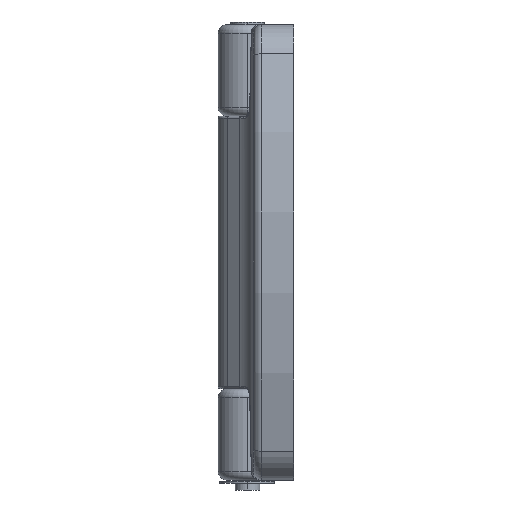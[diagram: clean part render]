
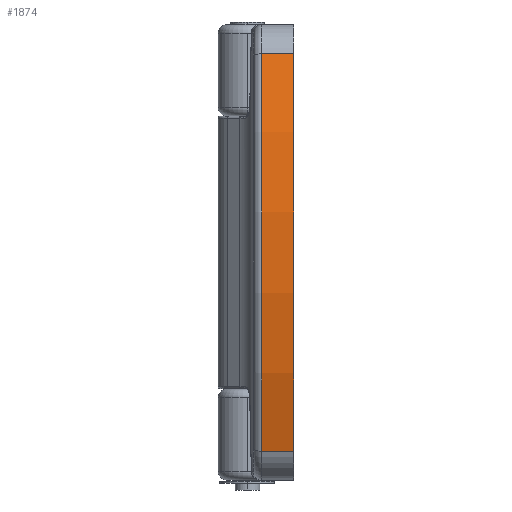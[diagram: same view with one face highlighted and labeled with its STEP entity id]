
A CAD part, left-side view. The second image highlights one B-rep face of the part: STEP entity #1874.
In plain terms, the highlighted cylindrical face has radius 150 mm (diameter 300 mm), a partial arc.
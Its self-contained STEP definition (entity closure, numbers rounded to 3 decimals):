
#134 = DIRECTION ( 'NONE',  ( 0., -1., 0. ) ) ;
#381 = LINE ( 'NONE', #9594, #9378 ) ;
#519 = DIRECTION ( 'NONE',  ( 0., 1., 0. ) ) ;
#545 = EDGE_LOOP ( 'NONE', ( #2660, #5555, #5509, #5385 ) ) ;
#1029 = CYLINDRICAL_SURFACE ( 'NONE', #3443, 150. ) ;
#1074 = DIRECTION ( 'NONE',  ( 0., 0., 1. ) ) ;
#1087 = CARTESIAN_POINT ( 'NONE',  ( -47.399, -11., 47.143 ) ) ;
#1137 = CARTESIAN_POINT ( 'NONE',  ( -47.399, -54., -47.143 ) ) ;
#1220 = VECTOR ( 'NONE', #11131, 1000. ) ;
#1265 = DIRECTION ( 'NONE',  ( 0., 1., 0. ) ) ;
#1297 = EDGE_CURVE ( 'NONE', #4873, #6379, #381, .T. ) ;
#1874 = ADVANCED_FACE ( 'NONE', ( #4222 ), #1029, .T. ) ;
#2212 = VERTEX_POINT ( 'NONE', #2805 ) ;
#2368 = EDGE_CURVE ( 'NONE', #11310, #4873, #5805, .T. ) ;
#2660 = ORIENTED_EDGE ( 'NONE', *, *, #1297, .T. ) ;
#2805 = CARTESIAN_POINT ( 'NONE',  ( -47.399, -3.4, -47.143 ) ) ;
#3090 = DIRECTION ( 'NONE',  ( 0., 1., 0. ) ) ;
#3443 = AXIS2_PLACEMENT_3D ( 'NONE', #8983, #3090, #7311 ) ;
#4222 = FACE_OUTER_BOUND ( 'NONE', #545, .T. ) ;
#4628 = CIRCLE ( 'NONE', #9040, 150. ) ;
#4873 = VERTEX_POINT ( 'NONE', #1087 ) ;
#5385 = ORIENTED_EDGE ( 'NONE', *, *, #2368, .T. ) ;
#5509 = ORIENTED_EDGE ( 'NONE', *, *, #12199, .F. ) ;
#5555 = ORIENTED_EDGE ( 'NONE', *, *, #12212, .T. ) ;
#5805 = CIRCLE ( 'NONE', #11871, 150. ) ;
#6379 = VERTEX_POINT ( 'NONE', #9097 ) ;
#7311 = DIRECTION ( 'NONE',  ( 0., 0., 1. ) ) ;
#8983 = CARTESIAN_POINT ( 'NONE',  ( 95., -54., 0. ) ) ;
#9040 = AXIS2_PLACEMENT_3D ( 'NONE', #9225, #134, #1074 ) ;
#9097 = CARTESIAN_POINT ( 'NONE',  ( -47.399, -3.4, 47.143 ) ) ;
#9225 = CARTESIAN_POINT ( 'NONE',  ( 95., -3.4, 0. ) ) ;
#9378 = VECTOR ( 'NONE', #519, 1000. ) ;
#9594 = CARTESIAN_POINT ( 'NONE',  ( -47.399, -54., 47.143 ) ) ;
#10388 = DIRECTION ( 'NONE',  ( 0., 0., -1. ) ) ;
#11131 = DIRECTION ( 'NONE',  ( 0., 1., 0. ) ) ;
#11192 = CARTESIAN_POINT ( 'NONE',  ( -47.399, -11., -47.143 ) ) ;
#11310 = VERTEX_POINT ( 'NONE', #11192 ) ;
#11871 = AXIS2_PLACEMENT_3D ( 'NONE', #12367, #1265, #10388 ) ;
#12199 = EDGE_CURVE ( 'NONE', #11310, #2212, #13061, .T. ) ;
#12212 = EDGE_CURVE ( 'NONE', #6379, #2212, #4628, .T. ) ;
#12367 = CARTESIAN_POINT ( 'NONE',  ( 95., -11., 0. ) ) ;
#13061 = LINE ( 'NONE', #1137, #1220 ) ;
